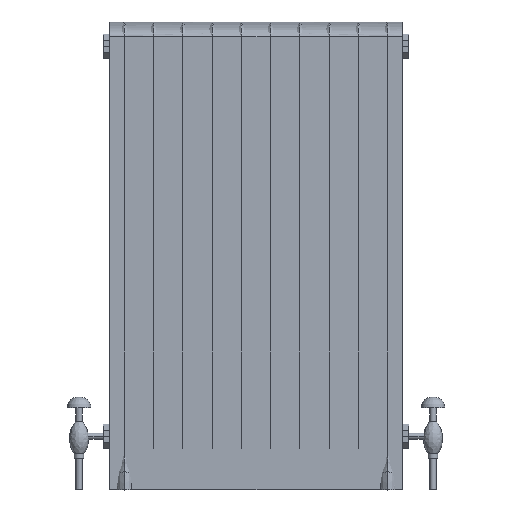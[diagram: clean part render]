
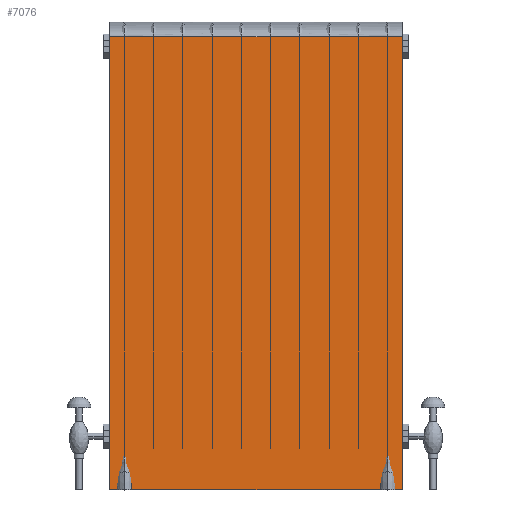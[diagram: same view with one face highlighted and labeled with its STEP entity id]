
A CAD part, front view. The second image highlights one B-rep face of the part: STEP entity #7076.
In plain terms, the highlighted planar face has unit normal (0, -1, 0).
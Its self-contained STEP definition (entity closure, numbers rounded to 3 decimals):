
#872=FACE_OUTER_BOUND('',#1309,.T.);
#1309=EDGE_LOOP('',(#4658,#4659,#4660,#4661));
#1839=LINE('',#10057,#2414);
#1844=LINE('',#10068,#2419);
#1846=LINE('',#10123,#2421);
#1847=LINE('',#10125,#2422);
#2414=VECTOR('',#8279,304.8);
#2419=VECTOR('',#8286,304.8);
#2421=VECTOR('',#8290,304.8);
#2422=VECTOR('',#8293,304.8);
#2958=VERTEX_POINT('',#10054);
#2959=VERTEX_POINT('',#10056);
#2963=VERTEX_POINT('',#10065);
#2964=VERTEX_POINT('',#10067);
#3586=EDGE_CURVE('',#2958,#2959,#1839,.T.);
#3591=EDGE_CURVE('',#2963,#2964,#1844,.T.);
#3594=EDGE_CURVE('',#2964,#2958,#1846,.T.);
#3595=EDGE_CURVE('',#2963,#2959,#1847,.T.);
#4658=ORIENTED_EDGE('',*,*,#3586,.F.);
#4659=ORIENTED_EDGE('',*,*,#3594,.F.);
#4660=ORIENTED_EDGE('',*,*,#3591,.F.);
#4661=ORIENTED_EDGE('',*,*,#3595,.T.);
#6426=PLANE('',#7545);
#7076=ADVANCED_FACE('',(#872),#6426,.T.);
#7545=AXIS2_PLACEMENT_3D('',#10124,#8291,#8292);
#8279=DIRECTION('',(0.,0.,-1.));
#8286=DIRECTION('',(0.,0.,1.));
#8290=DIRECTION('',(1.,0.,0.));
#8291=DIRECTION('center_axis',(0.,-1.,0.));
#8292=DIRECTION('ref_axis',(-1.,0.,0.));
#8293=DIRECTION('',(1.,0.,0.));
#10054=CARTESIAN_POINT('',(300.,-253.,930.));
#10056=CARTESIAN_POINT('',(300.,-253.,0.));
#10057=CARTESIAN_POINT('',(300.,-253.,930.));
#10065=CARTESIAN_POINT('',(-300.,-253.,0.));
#10067=CARTESIAN_POINT('',(-300.,-253.,930.));
#10068=CARTESIAN_POINT('',(-300.,-253.,0.));
#10123=CARTESIAN_POINT('',(300.,-253.,930.));
#10124=CARTESIAN_POINT('Origin',(300.,-253.,930.));
#10125=CARTESIAN_POINT('',(300.,-253.,0.));
